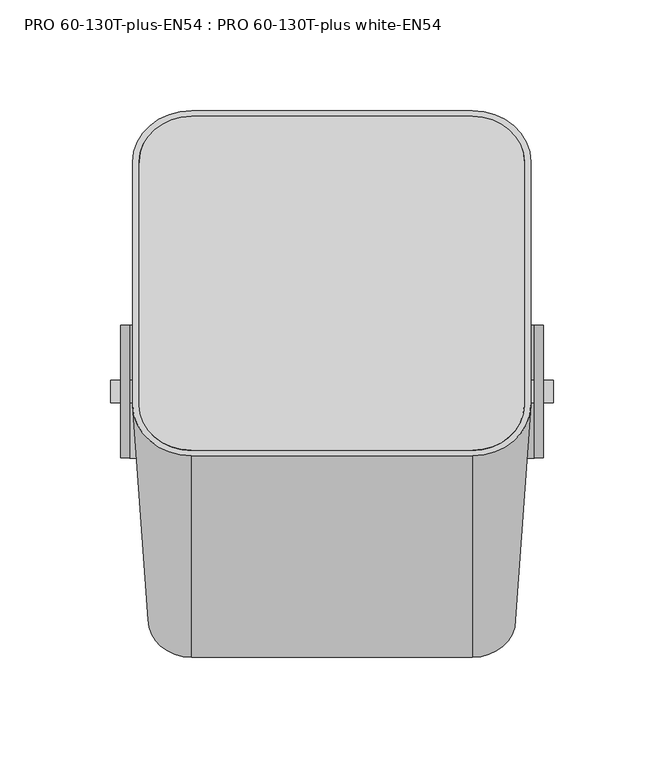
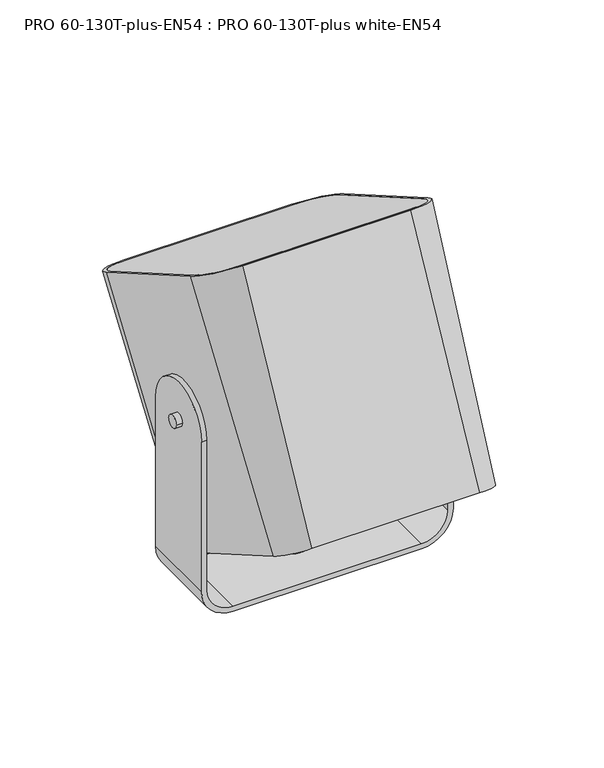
"""IFC4 building model written with IfcOpenShell, lengths in millimetres: proxy geometry, PRO 60-130T-plus-EN54 : PRO 60-130T-plus white-EN54."""

from ifc_helpers import new_model, si_unit, point, frame, frame_2d, origin, place, context, project, spatial, polyline, circle_curve, ellipse_curve, trimmed, segment, composite_curve, outline, extrude, source, transform, mapped, element, save
from ifc_brep_helpers import plane_surface, cylinder_surface, revolved_surface, advanced_brep


def pro_60_130t_plus_en54_pro_60_130t_plus_white_en54_0f04868d(model_context):
    return source(origin(), model_context, "Body", "SolidModel", [
        advanced_brep(
        [(-6.5506555, -12.2914038, 35.3380421), (-11.236947, -16.3498513, 37.6811878), (-17.864364, -16.3498513, 37.6811878), (-22.5506555, -12.2914038, 35.3380421), (-22.5506555, -6.5518923, 32.0243336), (-17.864364, -2.4934448, 29.6811878), (-11.236947, -2.4934448, 29.6811878), (-6.5506555, -6.5518923, 32.0243336), (-14.5506555, -14.6178005, 36.6811878), (-14.5506555, -4.2254956, 30.6811878), (-6.5506555, -10.2914038, 38.8021437), (-6.5506555, -4.5518923, 35.4884352), (-11.236947, -0.4934448, 33.1452894), (-17.864364, -0.4934448, 33.1452894), (-22.5506555, -4.5518923, 35.4884352), (-22.5506555, -10.2914038, 38.8021437), (-17.864364, -14.3498513, 41.1452894), (-11.236947, -14.3498513, 41.1452894), (-14.5506555, -5.2254956, 28.949137), (-14.5506555, -15.6178005, 34.949137), (-6.5506555, -17.5914038, 26.1581728), (-11.236947, -21.6498513, 28.5013186), (-17.864364, -21.6498513, 28.5013186), (-22.5506555, -17.5914038, 26.1581728), (-22.5506555, -11.8518923, 22.8444643), (-17.864364, -7.7934448, 20.5013186), (-11.236947, -7.7934448, 20.5013186), (-6.5506555, -11.8518923, 22.8444643), (-14.5506555, -20.7838259, 28.0013186), (-14.5506555, -8.6594702, 21.0013186), (-6.5506555, -13.2914038, 33.6059913), (-6.5506555, -7.5518923, 30.2922828), (-11.236947, -3.4934448, 27.949137), (-17.864364, -3.4934448, 27.949137), (-22.5506555, -7.5518923, 30.2922828), (-22.5506555, -13.2914038, 33.6059913), (-17.864364, -17.3498513, 35.949137), (-11.236947, -17.3498513, 35.949137), (-14.5506555, -9.4094702, 19.7022804), (-14.5506555, -21.5338259, 26.7022804), (-14.5506555, -20.0697243, 21.2381788), (-14.5506555, -17.471648, 19.7381788), (-14.5506555, -14.8735718, 18.2381788)],
        [
            (0, 1),
            (1, 2),
            (2, 3),
            (3, 4),
            (4, 5),
            (5, 6),
            (6, 7),
            (7, 0),
            (8, 9, circle_curve(frame((-14.5506555, -9.421648, 33.6811878), z_axis=(0.0, 0.5000000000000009, 0.8660254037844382), x_axis=(0.0, -0.8660254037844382, 0.5000000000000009)), 6.0)),
            (9, 8, circle_curve(frame((-14.5506555, -9.421648, 33.6811878), z_axis=(0.0, 0.5000000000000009, 0.8660254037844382), x_axis=(0.0, -0.8660254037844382, 0.5000000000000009)), 6.0)),
            (10, 11),
            (11, 12),
            (12, 13),
            (13, 14),
            (14, 15),
            (15, 16),
            (16, 17),
            (17, 10),
            (18, 19, circle_curve(frame((-14.5506555, -10.421648, 31.949137), z_axis=(0.0, 0.5000000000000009, 0.8660254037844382), x_axis=(0.0, -0.8660254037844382, 0.5000000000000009)), 6.0)),
            (19, 8),
            (9, 18),
            (19, 18, circle_curve(frame((-14.5506555, -10.421648, 31.949137), z_axis=(0.0, 0.5000000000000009, 0.8660254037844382), x_axis=(0.0, -0.8660254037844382, 0.5000000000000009)), 6.0)),
            (20, 21),
            (21, 22),
            (22, 23),
            (23, 24),
            (24, 25),
            (25, 26),
            (26, 27),
            (27, 20),
            (28, 29, circle_curve(frame((-14.5506555, -14.721648, 24.5013186), z_axis=(0.0, 0.5000000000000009, 0.8660254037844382), x_axis=(0.0, -0.8660254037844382, 0.5000000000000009)), 7.0)),
            (29, 28, circle_curve(frame((-14.5506555, -14.721648, 24.5013186), z_axis=(0.0, 0.5000000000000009, 0.8660254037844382), x_axis=(0.0, -0.8660254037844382, 0.5000000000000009)), 7.0)),
            (30, 31),
            (31, 32),
            (32, 33),
            (33, 34),
            (34, 35),
            (35, 36),
            (36, 37),
            (37, 30),
            (38, 39, circle_curve(frame((-14.5506555, -15.471648, 23.2022804), z_axis=(0.0, 0.5000000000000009, 0.8660254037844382), x_axis=(0.0, -0.8660254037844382, 0.5000000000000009)), 7.0)),
            (39, 28),
            (29, 38),
            (39, 38, circle_curve(frame((-14.5506555, -15.471648, 23.2022804), z_axis=(0.0, 0.5000000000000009, 0.8660254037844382), x_axis=(0.0, -0.8660254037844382, 0.5000000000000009)), 7.0)),
            (40, 41),
            (41, 42),
            (42, 40, circle_curve(frame((-14.5506555, -17.471648, 19.7381788), z_axis=(0.0, -0.5000000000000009, -0.8660254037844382), x_axis=(0.0, 0.8660254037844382, -0.5000000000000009)), 3.0)),
            (40, 42, circle_curve(frame((-14.5506555, -17.471648, 19.7381788), z_axis=(0.0, -0.5000000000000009, -0.8660254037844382), x_axis=(0.0, 0.8660254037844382, -0.5000000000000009)), 3.0)),
            (42, 38, circle_curve(frame((-14.5506555, -12.8735718, 21.7022804), z_axis=(1.0, 0.0, 0.0), x_axis=(0.0, -0.8660254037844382, 0.5000000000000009)), 4.0)),
            (39, 40, circle_curve(frame((-14.5506555, -18.0697243, 24.7022804), z_axis=(1.0, 0.0, 0.0), x_axis=(0.0, 0.8660254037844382, -0.5000000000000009)), 4.0)),
            (27, 31),
            (30, 20),
            (26, 32),
            (25, 33),
            (24, 34),
            (23, 35),
            (22, 36),
            (21, 37),
            (7, 11),
            (10, 0),
            (6, 12),
            (5, 13),
            (4, 14),
            (3, 15),
            (2, 16),
            (1, 17),
        ],
        [
            plane_surface(frame((-6.5506555, -12.2914038, 35.3380421), z_axis=(0.0, -0.5000000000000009, -0.8660254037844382), x_axis=(0.0, 0.8660254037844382, -0.5000000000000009))),
            plane_surface(frame((-6.5506555, -10.2914038, 38.8021437), z_axis=(0.0, 0.5000000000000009, 0.8660254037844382), x_axis=(0.0, -0.8660254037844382, 0.5000000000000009))),
            cylinder_surface(frame((-14.5506555, -7.421648, 37.1452894), z_axis=(0.0, -0.5000000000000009, -0.8660254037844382), x_axis=(0.0, -0.8660254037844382, 0.5000000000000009)), 6.0),
            plane_surface(frame((-6.5506555, -17.5914038, 26.1581728), z_axis=(0.0, -0.5000000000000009, -0.8660254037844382), x_axis=(0.0, 0.8660254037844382, -0.5000000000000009))),
            plane_surface(frame((-6.5506555, -13.2914038, 33.6059913), z_axis=(0.0, 0.5000000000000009, 0.8660254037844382), x_axis=(0.0, -0.8660254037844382, 0.5000000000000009))),
            cylinder_surface(frame((-14.5506555, -10.421648, 31.949137), z_axis=(0.0, -0.5000000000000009, -0.8660254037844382), x_axis=(0.0, -0.8660254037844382, 0.5000000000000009)), 7.0),
            plane_surface(frame((-14.5506555, -17.471648, 19.7381788), z_axis=(0.0, -0.5000000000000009, -0.8660254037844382), x_axis=(0.0, 0.8660254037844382, -0.5000000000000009))),
            revolved_surface(trimmed(ellipse_curve(frame((-14.5506555, -12.8735718, 21.7022804), z_axis=(1.0, 0.0, 0.0), x_axis=(0.0, -0.8660254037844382, 0.5000000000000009)), 4.0, 4.0), [point((-14.5506555, -14.8735718, 18.2381788))], [point((-14.5506555, -9.4094702, 19.7022804))], True, "CARTESIAN"), (-14.5506555, -1110.3291496, -1873.1465392), (0.0, 0.5000000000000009, 0.8660254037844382)),
            plane_surface(frame((-6.5506555, -17.5914038, 26.1581728), z_axis=(1.0, 0.0, 0.0), x_axis=(0.0, 0.5000000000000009, 0.8660254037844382))),
            plane_surface(frame((-6.5506555, -11.8518923, 22.8444643), z_axis=(0.7071067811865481, 0.6123724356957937, -0.35355339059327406), x_axis=(0.0, 0.5000000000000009, 0.8660254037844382))),
            plane_surface(frame((-11.236947, -7.7934448, 20.5013186), z_axis=(0.0, 0.8660254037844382, -0.5000000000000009), x_axis=(0.0, 0.5000000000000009, 0.8660254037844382))),
            plane_surface(frame((-17.864364, -7.7934448, 20.5013186), z_axis=(-0.7071067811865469, 0.6123724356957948, -0.35355339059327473), x_axis=(0.0, 0.5000000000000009, 0.8660254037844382))),
            plane_surface(frame((-22.5506555, -11.8518923, 22.8444643), z_axis=(-1.0, 0.0, 0.0), x_axis=(0.0, 0.5000000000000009, 0.8660254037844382))),
            plane_surface(frame((-22.5506555, -17.5914038, 26.1581728), z_axis=(-0.7071067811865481, -0.6123724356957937, 0.35355339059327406), x_axis=(0.0, 0.5000000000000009, 0.8660254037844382))),
            plane_surface(frame((-17.864364, -21.6498513, 28.5013186), z_axis=(0.0, -0.8660254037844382, 0.5000000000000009), x_axis=(0.0, 0.5000000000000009, 0.8660254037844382))),
            plane_surface(frame((-11.236947, -21.6498513, 28.5013186), z_axis=(0.7071067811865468, -0.6123724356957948, 0.35355339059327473), x_axis=(0.0, 0.5000000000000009, 0.8660254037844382))),
            plane_surface(frame((-6.5506555, -12.2914038, 35.3380421), z_axis=(1.0, 0.0, 0.0), x_axis=(0.0, 0.5000000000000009, 0.8660254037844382))),
            plane_surface(frame((-6.5506555, -6.5518923, 32.0243336), z_axis=(0.7071067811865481, 0.6123724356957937, -0.3535533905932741), x_axis=(0.0, 0.5000000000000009, 0.8660254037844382))),
            plane_surface(frame((-11.236947, -2.4934448, 29.6811878), z_axis=(0.0, 0.8660254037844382, -0.5000000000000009), x_axis=(0.0, 0.5000000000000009, 0.8660254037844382))),
            plane_surface(frame((-17.864364, -2.4934448, 29.6811878), z_axis=(-0.7071067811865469, 0.6123724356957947, -0.3535533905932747), x_axis=(0.0, 0.5000000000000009, 0.8660254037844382))),
            plane_surface(frame((-22.5506555, -6.5518923, 32.0243336), z_axis=(-1.0, 0.0, 0.0), x_axis=(0.0, 0.5000000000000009, 0.8660254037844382))),
            plane_surface(frame((-22.5506555, -12.2914038, 35.3380421), z_axis=(-0.7071067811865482, -0.6123724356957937, 0.35355339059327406), x_axis=(0.0, 0.5000000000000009, 0.8660254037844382))),
            plane_surface(frame((-17.864364, -16.3498513, 37.6811878), z_axis=(0.0, -0.8660254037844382, 0.5000000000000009), x_axis=(0.0, 0.5000000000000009, 0.8660254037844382))),
            plane_surface(frame((-11.236947, -16.3498513, 37.6811878), z_axis=(0.707106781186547, -0.6123724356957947, 0.3535533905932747), x_axis=(0.0, 0.5000000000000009, 0.8660254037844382))),
        ],
        [
            (0, [[1, 2, 3, 4, 5, 6, 7, 8], [9, 10]]),
            (1, [[11, 12, 13, 14, 15, 16, 17, 18]]),
            (2, [[19, 20, -10, 21]]),
            (2, [[-9, -20, 22, -21]]),
            (3, [[23, 24, 25, 26, 27, 28, 29, 30], [31, 32]]),
            (4, [[33, 34, 35, 36, 37, 38, 39, 40], [-22, -19]]),
            (5, [[41, 42, -32, 43]]),
            (5, [[-31, -42, 44, -43]]),
            (6, [[45, 46, 47]]),
            (6, [[-45, 48, -46]]),
            (7, [[49, -44, 50, -47]]),
            (7, [[-50, -41, -49, -48]]),
            (8, [[51, -33, 52, -30]]),
            (9, [[53, -34, -51, -29]]),
            (10, [[54, -35, -53, -28]]),
            (11, [[55, -36, -54, -27]]),
            (12, [[56, -37, -55, -26]]),
            (13, [[57, -38, -56, -25]]),
            (14, [[58, -39, -57, -24]]),
            (15, [[-52, -40, -58, -23]]),
            (16, [[59, -11, 60, -8]]),
            (17, [[61, -12, -59, -7]]),
            (18, [[62, -13, -61, -6]]),
            (19, [[63, -14, -62, -5]]),
            (20, [[64, -15, -63, -4]]),
            (21, [[65, -16, -64, -3]]),
            (22, [[66, -17, -65, -2]]),
            (23, [[-60, -18, -66, -1]]),
        ],
    ),
        extrude(outline(composite_curve([segment(polyline([(0.0, 0.0), (-126.9999999, 0.0)]), True, "CONTINUOUS"), segment(trimmed(circle_curve(frame_2d((-126.9999999, 23.5)), 23.5), [point((-126.9999999, 0.0))], [point((-150.4999999, 23.5))], False, "CARTESIAN"), True, "CONTINUOUS"), segment(polyline([(-150.4999999, 23.5), (-150.4999999, 150.5)]), True, "CONTINUOUS"), segment(trimmed(circle_curve(frame_2d((-126.9999999, 150.5)), 23.5), [point((-150.4999999, 150.5))], [point((-126.9999999, 174.0))], False, "CARTESIAN"), True, "CONTINUOUS"), segment(polyline([(-126.9999999, 174.0), (0.0, 174.0)]), True, "CONTINUOUS"), segment(trimmed(circle_curve(frame_2d((0.0, 150.5)), 23.5), [point((0.0, 174.0))], [point((23.5, 150.5))], False, "CARTESIAN"), True, "CONTINUOUS"), segment(polyline([(23.5, 150.5), (23.5, 23.5)]), True, "CONTINUOUS"), segment(trimmed(circle_curve(frame_2d((0.0, 23.5)), 23.5), [point((23.5, 23.5))], [point((0.0, 0.0))], False, "CARTESIAN"), True, "CONTINUOUS")], self_intersect=False)), frame((87.0, 103.3676131, 196.0379969), z_axis=(0.0, 0.5000000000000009, 0.8660254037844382), x_axis=(0.0, 0.8660254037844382, -0.5000000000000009)), (0.0, 0.0, 1.0), 1.0),
        extrude(outline(composite_curve([segment(polyline([(0.0, 0.0), (-126.9999999, 0.0)]), True, "CONTINUOUS"), segment(trimmed(circle_curve(frame_2d((-126.9999999, 23.5)), 23.5), [point((-126.9999999, 0.0))], [point((-150.4999999, 23.5))], False, "CARTESIAN"), True, "CONTINUOUS"), segment(polyline([(-150.4999999, 23.5), (-150.4999999, 150.5)]), True, "CONTINUOUS"), segment(trimmed(circle_curve(frame_2d((-126.9999999, 150.5)), 23.5), [point((-150.4999999, 150.5))], [point((-126.9999999, 174.0))], False, "CARTESIAN"), True, "CONTINUOUS"), segment(polyline([(-126.9999999, 174.0), (0.0, 174.0)]), True, "CONTINUOUS"), segment(trimmed(circle_curve(frame_2d((0.0, 150.5)), 23.5), [point((0.0, 174.0))], [point((23.5, 150.5))], False, "CARTESIAN"), True, "CONTINUOUS"), segment(polyline([(23.5, 150.5), (23.5, 23.5)]), True, "CONTINUOUS"), segment(trimmed(circle_curve(frame_2d((0.0, 23.5)), 23.5), [point((23.5, 23.5))], [point((0.0, 0.0))], False, "CARTESIAN"), True, "CONTINUOUS")], self_intersect=False)), frame((87.0, 101.8676131, 193.4399207), z_axis=(0.0, 0.5000000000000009, 0.8660254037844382), x_axis=(0.0, 0.8660254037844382, -0.5000000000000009)), (0.0, 0.0, 1.0), 1.0),
        advanced_brep(
        [(63.5, -120.0049844, 102.145309), (-63.5, -120.0049844, 102.145309), (-83.0, -103.117489, 92.395309), (-83.0, 6.8677373, 28.895309), (-63.5, 23.7552327, 19.145309), (63.5, 23.7552327, 19.145309), (83.0, 6.8677373, 28.895309), (83.0, -103.117489, 92.395309), (63.5, -29.0672863, 273.6540223), (90.0, -6.1176131, 260.4040223), (90.0, 103.8676131, 196.9040223), (63.5, 126.8172863, 183.6540223), (-63.5, 126.8172863, 183.6540223), (-90.0, 103.8676131, 196.9040223), (-90.0, -6.1176131, 260.4040223), (-63.5, -29.0672863, 273.6540223), (87.0, -6.1176131, 260.4040223), (63.5, -26.4692101, 272.1540223), (-63.5, -26.4692101, 272.1540223), (-87.0, -6.1176131, 260.4040223), (-87.0, 103.8676131, 196.9040223), (-63.5, 124.2192101, 185.1540223), (63.5, 124.2192101, 185.1540223), (87.0, 103.8676131, 196.9040223), (87.0, -8.1176131, 256.9399207), (87.0, 101.8676131, 193.4399207), (63.5, 122.2192101, 181.6899207), (-63.5, 122.2192101, 181.6899207), (-87.0, 101.8676131, 193.4399207), (-87.0, -8.1176131, 256.9399207), (-63.5, -28.4692101, 268.6899207), (63.5, -28.4692101, 268.6899207)],
        [
            (0, 1),
            (1, 2, circle_curve(frame((-63.5, -103.117489, 92.395309), z_axis=(0.0, -0.5000000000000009, -0.8660254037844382), x_axis=(-1.0, 0.0, 0.0)), 19.5)),
            (2, 3),
            (3, 4, circle_curve(frame((-63.5, 6.8677373, 28.895309), z_axis=(0.0, -0.500000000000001, -0.866025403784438), x_axis=(0.0, 0.8660254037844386, -0.5000000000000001)), 19.5)),
            (4, 5),
            (5, 6, circle_curve(frame((63.5, 6.8677373, 28.895309), z_axis=(0.0, -0.500000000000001, -0.866025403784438), x_axis=(1.0, 0.0, 0.0)), 19.5)),
            (6, 7),
            (7, 0, circle_curve(frame((63.5, -103.117489, 92.395309), z_axis=(0.0, -0.5000000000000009, -0.8660254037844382), x_axis=(0.0, -0.8660254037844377, 0.5000000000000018)), 19.5)),
            (8, 9, circle_curve(frame((63.5, -6.1176131, 260.4040223), z_axis=(0.0, 0.5000000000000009, 0.8660254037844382), x_axis=(0.0, -0.8660254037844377, 0.5000000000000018)), 26.5)),
            (9, 10),
            (10, 11, circle_curve(frame((63.5, 103.8676131, 196.9040223), z_axis=(0.0, 0.500000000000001, 0.866025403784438), x_axis=(1.0, 0.0, 0.0)), 26.5)),
            (11, 12),
            (12, 13, circle_curve(frame((-63.5, 103.8676131, 196.9040223), z_axis=(0.0, 0.500000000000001, 0.866025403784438), x_axis=(0.0, 0.8660254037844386, -0.5000000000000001)), 26.5)),
            (13, 14),
            (14, 15, circle_curve(frame((-63.5, -6.1176131, 260.4040223), z_axis=(0.0, 0.5000000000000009, 0.8660254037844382), x_axis=(-1.0, 0.0, 0.0)), 26.5)),
            (15, 8),
            (16, 17, circle_curve(frame((63.5, -6.1176131, 260.4040223), z_axis=(0.0, -0.5000000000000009, -0.8660254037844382), x_axis=(0.0, -0.8660254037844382, 0.5000000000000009)), 23.5)),
            (17, 18),
            (18, 19, circle_curve(frame((-63.5, -6.1176131, 260.4040223), z_axis=(0.0, -0.5000000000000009, -0.8660254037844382), x_axis=(-1.0, 0.0, 0.0)), 23.5)),
            (19, 20),
            (20, 21, circle_curve(frame((-63.5, 103.8676131, 196.9040223), z_axis=(0.0, -0.5000000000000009, -0.8660254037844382), x_axis=(0.0, 0.8660254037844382, -0.5000000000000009)), 23.5)),
            (21, 22),
            (22, 23, circle_curve(frame((63.5, 103.8676131, 196.9040223), z_axis=(0.0, -0.5000000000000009, -0.8660254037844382), x_axis=(1.0, 0.0, 0.0)), 23.5)),
            (23, 16),
            (0, 8),
            (15, 1),
            (14, 2),
            (13, 3),
            (12, 4),
            (11, 5),
            (10, 6),
            (9, 7),
            (24, 25),
            (25, 26, circle_curve(frame((63.5, 101.8676131, 193.4399207), z_axis=(0.0, 0.5000000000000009, 0.8660254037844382), x_axis=(1.0, 0.0, 0.0)), 23.5)),
            (26, 27),
            (27, 28, circle_curve(frame((-63.5, 101.8676131, 193.4399207), z_axis=(0.0, 0.5000000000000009, 0.8660254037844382), x_axis=(0.0, 0.8660254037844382, -0.5000000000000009)), 23.5)),
            (28, 29),
            (29, 30, circle_curve(frame((-63.5, -8.1176131, 256.9399207), z_axis=(0.0, 0.5000000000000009, 0.8660254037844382), x_axis=(-1.0, 0.0, 0.0)), 23.5)),
            (30, 31),
            (31, 24, circle_curve(frame((63.5, -8.1176131, 256.9399207), z_axis=(0.0, 0.5000000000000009, 0.8660254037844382), x_axis=(0.0, -0.8660254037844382, 0.5000000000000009)), 23.5)),
            (24, 16),
            (23, 25),
            (22, 26),
            (21, 27),
            (20, 28),
            (19, 29),
            (18, 30),
            (17, 31),
        ],
        [
            plane_surface(frame((0.0, -48.1248759, 60.645309), z_axis=(0.0, -0.5000000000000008, -0.8660254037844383), x_axis=(0.0, 0.8660254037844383, -0.5000000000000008))),
            plane_surface(frame((0.0, 48.875, 228.6540223), z_axis=(0.0, 0.5000000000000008, 0.8660254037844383), x_axis=(0.0, 0.8660254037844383, -0.5000000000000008))),
            plane_surface(frame((0.0, -29.0672863, 273.6540223), z_axis=(0.0, -0.8834917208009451, 0.468446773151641), x_axis=(1.0, 0.0, 0.0))),
            revolved_surface(polyline([(-63.5, -120.00498435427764, 102.14530897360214), (-63.5, -29.067286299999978, 273.6540223)]), (-63.5, -373.3314289, -375.6289638), (0.0, 0.5000000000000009, 0.8660254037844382)),
            plane_surface(frame((-90.0, 48.875, 228.6540223), z_axis=(-0.9993496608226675, -0.018029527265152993, -0.03122805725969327), x_axis=(0.0, -0.8660254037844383, 0.5000000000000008))),
            revolved_surface(polyline([(-83.00000000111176, 6.867737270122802, 28.895309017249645), (-90.0, 103.86761310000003, 196.9040223)]), (-63.5, -263.3462026, -439.1289638), (0.0, 0.500000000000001, 0.866025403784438)),
            plane_surface(frame((0.0, 126.8172863, 183.6540223), z_axis=(0.0, 0.8474326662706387, -0.5309028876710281), x_axis=(-1.0, 0.0, 0.0))),
            revolved_surface(polyline([(63.5, 23.755232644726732, 19.14530901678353), (63.5, 126.81728630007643, 183.654022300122)]), (63.5, -263.3462026, -439.1289638), (0.0, 0.500000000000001, 0.866025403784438)),
            plane_surface(frame((90.0, 48.875, 228.6540223), z_axis=(0.9993496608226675, -0.018029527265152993, -0.03122805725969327), x_axis=(0.0, 0.8660254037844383, -0.5000000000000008))),
            revolved_surface(polyline([(82.99999999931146, -103.11748898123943, 92.39530897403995), (90.00000000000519, -6.1176130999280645, 260.4040223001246)]), (63.5, -373.3314289, -375.6289638), (0.0, 0.5000000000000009, 0.8660254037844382)),
            plane_surface(frame((87.0, 101.8676131, 193.4399207), z_axis=(0.0, 0.5000000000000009, 0.8660254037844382), x_axis=(0.0, 0.8660254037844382, -0.5000000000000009))),
            plane_surface(frame((87.0, -8.1176131, 256.9399207), z_axis=(-1.0000000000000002, 0.0, 0.0), x_axis=(0.0, 0.5000000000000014, 0.8660254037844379))),
            revolved_surface(polyline([(87.0, 101.86761310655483, 193.43992069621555), (87.0, 103.86761310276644, 196.90402230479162)]), (63.5, 103.8676131, 196.9040223), (0.0, -0.5000000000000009, -0.8660254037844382)),
            plane_surface(frame((63.5, 122.2192101, 181.6899207), z_axis=(0.0, -0.866025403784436, 0.5000000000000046), x_axis=(0.0, 0.5000000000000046, 0.866025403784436))),
            revolved_surface(polyline([(-63.5, 122.21921009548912, 181.68992069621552), (-63.5, 124.21921009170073, 185.1540223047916)]), (-63.5, 103.8676131, 196.9040223), (0.0, -0.5000000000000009, -0.8660254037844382)),
            plane_surface(frame((-87.0, 101.8676131, 193.4399207), z_axis=(1.0000000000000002, 0.0, 0.0), x_axis=(0.0, 0.5000000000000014, 0.8660254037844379))),
            revolved_surface(polyline([(-87.0, -8.117613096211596, 256.939920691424), (-87.0, -6.1176131, 260.4040223)]), (-63.5, -6.1176131, 260.4040223), (0.0, -0.5000000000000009, -0.8660254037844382)),
            plane_surface(frame((-63.5, -28.4692101, 268.6899207), z_axis=(0.0, 0.8660254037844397, -0.4999999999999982), x_axis=(0.0, 0.4999999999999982, 0.8660254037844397))),
            revolved_surface(polyline([(63.5, -28.469210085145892, 268.689920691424), (63.5, -26.469210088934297, 272.1540223)]), (63.5, -6.1176131, 260.4040223), (0.0, -0.5000000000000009, -0.8660254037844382)),
        ],
        [
            (0, [[1, 2, 3, 4, 5, 6, 7, 8]]),
            (1, [[9, 10, 11, 12, 13, 14, 15, 16], [17, 18, 19, 20, 21, 22, 23, 24]]),
            (2, [[25, -16, 26, -1]]),
            (3, [[-26, -15, 27, -2]]),
            (4, [[-27, -14, 28, -3]]),
            (5, [[-28, -13, 29, -4]]),
            (6, [[-29, -12, 30, -5]]),
            (7, [[-30, -11, 31, -6]]),
            (8, [[-31, -10, 32, -7]]),
            (9, [[-32, -9, -25, -8]]),
            (10, [[33, 34, 35, 36, 37, 38, 39, 40]]),
            (11, [[41, -24, 42, -33]]),
            (12, [[-42, -23, 43, -34]]),
            (13, [[-43, -22, 44, -35]]),
            (14, [[-44, -21, 45, -36]]),
            (15, [[-45, -20, 46, -37]]),
            (16, [[-46, -19, 47, -38]]),
            (17, [[-47, -18, 48, -39]]),
            (18, [[-48, -17, -41, -40]]),
        ],
    ),
        extrude(outline(composite_curve([segment(trimmed(circle_curve(frame_2d((0.0, 144.0000391)), 5.0), [point((5.0, 144.0000391))], [point((-5.0, 144.0000391))], False, "CARTESIAN"), True, "CONTINUOUS"), segment(trimmed(circle_curve(frame_2d((0.0, 144.0000391)), 5.0), [point((-5.0, 144.0000391))], [point((5.0, 144.0000391))], False, "CARTESIAN"), True, "CONTINUOUS")], self_intersect=False)), frame((-100.0, 0.0, 0.0), z_axis=(1.0, 0.0, 0.0), x_axis=(0.0, 1.0, 0.0)), (0.0, 0.0, 1.0), 200.0),
        advanced_brep(
        [(-71.5, 30.0, 0.0), (-95.5, 30.0, 24.0), (-95.5, 30.0, 144.0000391), (-91.5, 30.0, 144.0000391), (-91.5, 30.0, 24.0), (-71.5, 30.0, 4.0), (71.5000503, 30.0, 4.0), (91.4998435, 30.0, 23.9997932), (91.4998435, 30.0, 144.0000391), (95.4998435, 30.0, 144.0000391), (95.4998435, 30.0, 23.9997932), (71.5000503, 30.0, 0.0), (-71.5, -30.0, 0.0), (71.5000503, -30.0, 0.0), (95.4998435, -30.0, 23.9997932), (95.4998435, -30.0, 144.0000391), (91.4998435, -30.0, 144.0000391), (91.4998435, -30.0, 23.9997932), (71.5000503, -30.0, 4.0), (-71.5, -30.0, 4.0), (-91.5, -30.0, 24.0), (-91.5, -30.0, 144.0000391), (-95.5, -30.0, 144.0000391), (-95.5, -30.0, 24.0), (95.4998435, 0.0, 174.0000391), (91.4998435, 0.0, 174.0000391), (-91.5, 0.0, 174.0000391), (-95.5, 0.0, 174.0000391)],
        [
            (0, 1, circle_curve(frame((-71.5, 30.0, 24.0), z_axis=(0.0, 1.0, 0.0), x_axis=(1.0, 0.0, 0.0)), 24.0)),
            (1, 2),
            (2, 3),
            (3, 4),
            (4, 5, circle_curve(frame((-71.5, 30.0, 24.0), z_axis=(0.0, -1.0, 0.0), x_axis=(1.0, 0.0, 0.0)), 20.0)),
            (5, 6),
            (6, 7, circle_curve(frame((71.5000503, 30.0, 23.9997932), z_axis=(0.0, -1.0, 0.0), x_axis=(1.0, 0.0, 0.0)), 19.9997932)),
            (7, 8),
            (8, 9),
            (9, 10),
            (10, 11, circle_curve(frame((71.5000503, 30.0, 23.9997932), z_axis=(0.0, 1.0, 0.0), x_axis=(1.0, 0.0, 0.0)), 23.9997932)),
            (11, 0),
            (12, 13),
            (13, 14, circle_curve(frame((71.5000503, -30.0, 23.9997932), z_axis=(0.0, -1.0, 0.0), x_axis=(1.0, 0.0, 0.0)), 23.9997932)),
            (14, 15),
            (15, 16),
            (16, 17),
            (17, 18, circle_curve(frame((71.5000503, -30.0, 23.9997932), z_axis=(0.0, 1.0, 0.0), x_axis=(1.0, 0.0, 0.0)), 19.9997932)),
            (18, 19),
            (19, 20, circle_curve(frame((-71.5, -30.0, 24.0), z_axis=(0.0, 1.0, 0.0), x_axis=(1.0, 0.0, 0.0)), 20.0)),
            (20, 21),
            (21, 22),
            (22, 23),
            (23, 12, circle_curve(frame((-71.5, -30.0, 24.0), z_axis=(0.0, -1.0, 0.0), x_axis=(1.0, 0.0, 0.0)), 24.0)),
            (11, 13),
            (12, 0),
            (10, 14),
            (9, 24, circle_curve(frame((95.4998435, 0.0, 144.0000391), z_axis=(1.0, 0.0, 0.0), x_axis=(0.0, -1.0, 0.0)), 30.0)),
            (24, 15, circle_curve(frame((95.4998435, 0.0, 144.0000391), z_axis=(1.0, 0.0, 0.0), x_axis=(0.0, -1.0, 0.0)), 30.0)),
            (16, 25, circle_curve(frame((91.4998435, 0.0, 144.0000391), z_axis=(-1.0, 0.0, 0.0), x_axis=(0.0, -1.0, 0.0)), 30.0)),
            (25, 8, circle_curve(frame((91.4998435, 0.0, 144.0000391), z_axis=(-1.0, 0.0, 0.0), x_axis=(0.0, -1.0, 0.0)), 30.0)),
            (7, 17),
            (6, 18),
            (5, 19),
            (4, 20),
            (3, 26, circle_curve(frame((-91.5, 0.0, 144.0000391), z_axis=(1.0, 0.0, 0.0), x_axis=(0.0, -1.0, 0.0)), 30.0)),
            (26, 21, circle_curve(frame((-91.5, 0.0, 144.0000391), z_axis=(1.0, 0.0, 0.0), x_axis=(0.0, -1.0, 0.0)), 30.0)),
            (22, 27, circle_curve(frame((-95.5, 0.0, 144.0000391), z_axis=(-1.0, 0.0, 0.0), x_axis=(0.0, -1.0, 0.0)), 30.0)),
            (27, 2, circle_curve(frame((-95.5, 0.0, 144.0000391), z_axis=(-1.0, 0.0, 0.0), x_axis=(0.0, -1.0, 0.0)), 30.0)),
            (1, 23),
        ],
        [
            plane_surface(frame((71.5000503, 30.0, 0.0), z_axis=(0.0, 1.0, 0.0), x_axis=(1.0, 0.0, 0.0))),
            plane_surface(frame((71.5000503, -30.0, 0.0), z_axis=(0.0, -1.0, 0.0), x_axis=(-1.0, 0.0, 0.0))),
            plane_surface(frame((-71.5, 30.0, 0.0), z_axis=(0.0, 0.0, -1.0), x_axis=(0.0, -1.0, 0.0))),
            cylinder_surface(frame((71.5000503, -30.0, 23.9997932), z_axis=(0.0, 1.0, 0.0), x_axis=(1.0, 0.0, 0.0)), 23.9997932),
            plane_surface(frame((95.4998435, 30.0, 23.9997932), z_axis=(1.0, 0.0, 0.0), x_axis=(0.0, -1.0, 0.0))),
            plane_surface(frame((91.4998435, 30.0, 174.0000391), z_axis=(-1.0, 0.0, 0.0), x_axis=(0.0, -1.0, 0.0))),
            revolved_surface(polyline([(91.4998435, -30.0, 23.9997932), (91.4998435, 30.0, 23.9997932)]), (71.5000503, -30.0, 23.9997932), (0.0, -1.0, 0.0)),
            plane_surface(frame((71.5000503, 30.0, 4.0), z_axis=(0.0, 0.0, 1.0), x_axis=(0.0, -1.0, 0.0))),
            revolved_surface(polyline([(-51.5, -30.0, 24.0), (-51.5, 30.0, 24.0)]), (-71.5, -30.0, 24.0), (0.0, -1.0, 0.0)),
            plane_surface(frame((-91.5, 30.0, 24.0), z_axis=(1.0, 0.0, 0.0), x_axis=(0.0, -1.0, 0.0))),
            plane_surface(frame((-95.5, 30.0, 174.0000391), z_axis=(-1.0, 0.0, 0.0), x_axis=(0.0, -1.0, 0.0))),
            cylinder_surface(frame((-71.5, -30.0, 24.0), z_axis=(0.0, 1.0, 0.0), x_axis=(1.0, 0.0, 0.0)), 24.0),
            cylinder_surface(frame((-100.0, 0.0, 144.0000391), z_axis=(-1.0, 0.0, 0.0), x_axis=(0.0, -1.0, 0.0)), 30.0),
        ],
        [
            (0, [[1, 2, 3, 4, 5, 6, 7, 8, 9, 10, 11, 12]]),
            (1, [[13, 14, 15, 16, 17, 18, 19, 20, 21, 22, 23, 24]]),
            (2, [[25, -13, 26, -12]]),
            (3, [[27, -14, -25, -11]]),
            (4, [[-10, 28, 29, -15, -27]]),
            (5, [[-17, 30, 31, -8, 32]]),
            (6, [[33, -18, -32, -7]]),
            (7, [[34, -19, -33, -6]]),
            (8, [[35, -20, -34, -5]]),
            (9, [[-4, 36, 37, -21, -35]]),
            (10, [[-23, 38, 39, -2, 40]]),
            (11, [[-26, -24, -40, -1]]),
            (12, [[-31, -30, -16, -29, -28, -9]]),
            (12, [[-39, -38, -22, -37, -36, -3]]),
        ],
    ),
    ])


if __name__ == "__main__":
    model = new_model("IFC4")
    model_context = context("Model", 3, world=origin())
    ifc_project = project(units=[si_unit("LENGTHUNIT", "METRE", prefix="MILLI")], contexts=[model_context])
    site = spatial("IfcSite", under=ifc_project)
    building = spatial("IfcBuilding", under=site)
    placement = place(None, origin())
    pro_60_130t_plus_en54_pro_60_130t_plus_white_en54_shape = pro_60_130t_plus_en54_pro_60_130t_plus_white_en54_0f04868d(model_context)
    element("IfcBuildingElementProxy", 1, Name="PRO 60-130T-plus-EN54 : PRO 60-130T-plus white-EN54", ObjectType="PRO 60-130T-plus-EN54 : PRO 60-130T-plus white-EN54", at=placement, inside=building, context=model_context, shape_type="MappedRepresentation", body=[
        mapped(pro_60_130t_plus_en54_pro_60_130t_plus_white_en54_shape, transform((0.0, 0.0, 0.0), x_axis=(1.0, 0.0, 0.0), y_axis=(0.0, 1.0, 0.0), z_axis=(0.0, 0.0, 1.0))),
    ])
    save(model, "model.ifc")
